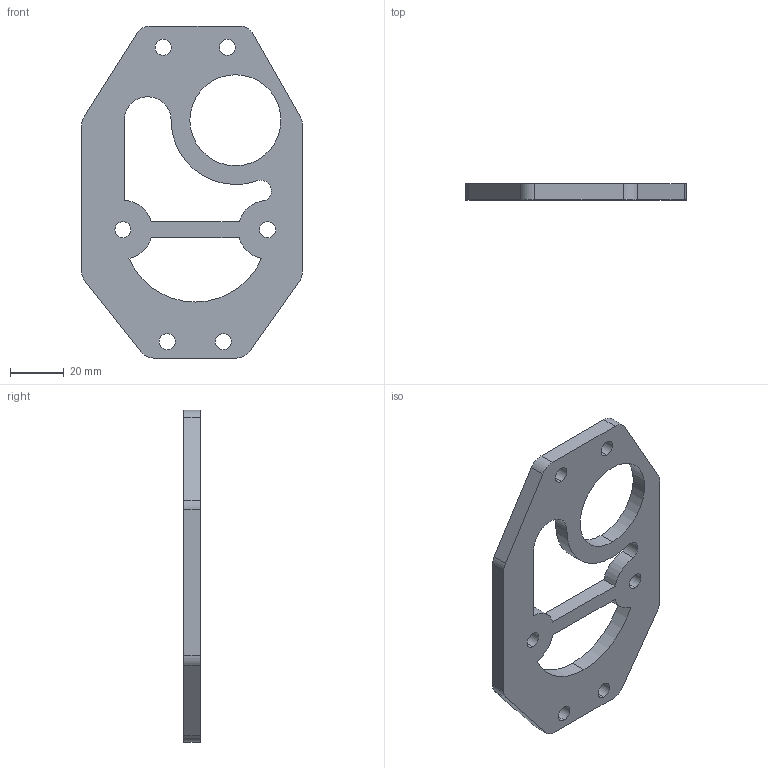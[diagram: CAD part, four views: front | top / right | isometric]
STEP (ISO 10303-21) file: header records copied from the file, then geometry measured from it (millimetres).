
FILE_DESCRIPTION (( 'STEP AP214' ), '1' );
FILE_NAME ('Base Plate.STEP', '2026-04-30T16:20:53', ( '' ), ( '' ), 'SwSTEP 2.0', 'SolidWorks 2022', '' );
FILE_SCHEMA (( 'AUTOMOTIVE_DESIGN' ));
Length unit declared in the file: millimetre
Products named in the file (1): Base Plate
Bounding box: 82.42 x 6 x 124 mm (x, y, z)
Volume: 33124.4 mm3; surface area: 16228.3 mm2
Topology: 1 solids, 1 shells, 45 faces, 129 edges, 86 vertices
Faces by surface type: cylinder 32, plane 13
Entity records: 1577 total; most frequent: DIRECTION 285, CARTESIAN_POINT 261, ORIENTED_EDGE 258, EDGE_CURVE 129, AXIS2_PLACEMENT_3D 110, VERTEX_POINT 86, VECTOR 65, LINE 65
